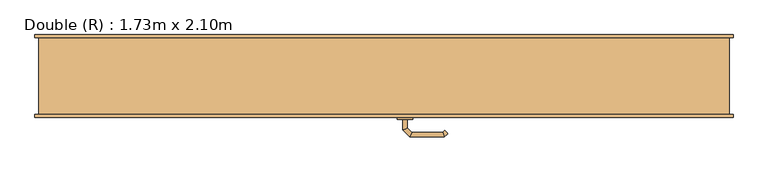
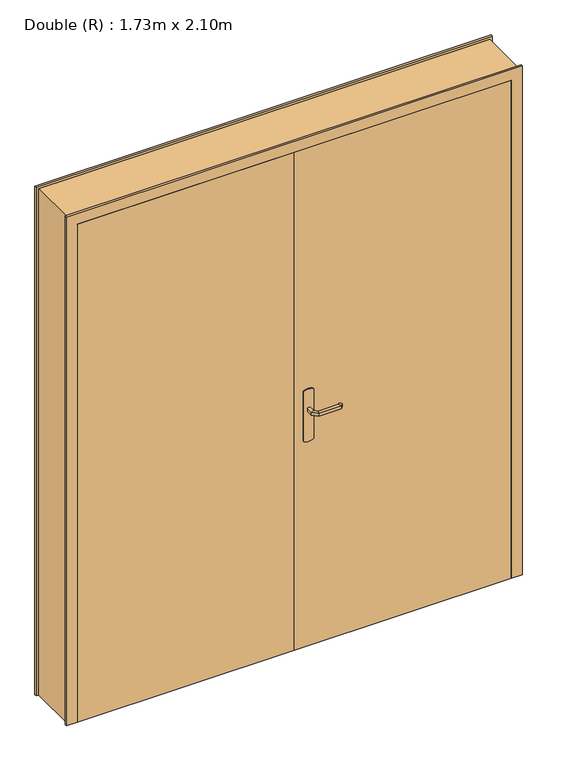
"""IFC4 building model written with IfcOpenShell, lengths in millimetres: door geometry, Double (R) : 1.73m x 2.10m."""

from ifc_helpers import new_model, si_unit, point, frame, frame_2d, origin, origin_with_axes, place, context, project, spatial, polyline, circle_curve, ellipse_curve, trimmed, segment, composite_curve, outline, extrude, faceted_brep, source, transform, mapped, element, save
from ifc_brep_helpers import plane_surface, cylinder_surface, advanced_brep


def double_r_1_73m_x_2_10m_c7e8f5c4(model_context):
    return source(origin(), model_context, "Body", "SolidModel", [
        advanced_brep(
        [(61.0, -63.0, 993.0), (61.0, -63.0, 1007.0), (49.0, -63.0, 1007.0), (49.0, -63.0, 993.0), (61.0, -40.5147955, 993.0), (61.0, -40.5147955, 1007.0), (49.0, -35.5442327, 1007.0), (49.0, -35.5442327, 993.0), (72.4852814, -29.0295141, 993.0), (72.4852814, -29.0295141, 1007.0), (67.5147186, -17.0295141, 1007.0), (67.5147186, -17.0295141, 993.0), (152.5605023, -29.0295141, 993.0), (152.5605023, -29.0295141, 1007.0), (157.531065, -17.0295141, 1007.0), (157.531065, -17.0295141, 993.0), (157.8742108, -34.3432226, 993.0), (166.3594922, -25.8579412, 993.0), (166.3594922, -25.8579412, 1007.0), (157.8742108, -34.3432226, 1007.0)],
        [
            (0, 1),
            (1, 2, circle_curve(frame((55.0, -63.0, 986.9542278), z_axis=(0.0, -1.0, 0.0), x_axis=(-1.0, 0.0, 0.0)), 20.9244589)),
            (2, 3),
            (3, 0, circle_curve(frame((55.0, -63.0, 1013.0457722), z_axis=(0.0, -1.0, 0.0), x_axis=(-1.0, 0.0, 0.0)), 20.9244589)),
            (0, 4),
            (4, 5),
            (5, 1),
            (5, 6, ellipse_curve(frame((55.0, -38.0295141, 986.9542278), z_axis=(-0.38268343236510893, -0.9238795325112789, 0.0), x_axis=(0.9238795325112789, -0.3826834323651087, 0.0)), 22.6484711, 20.9244589)),
            (6, 2),
            (6, 7),
            (7, 3),
            (7, 4, ellipse_curve(frame((55.0, -38.0295141, 1013.0457722), z_axis=(-0.38268343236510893, -0.9238795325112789, 0.0), x_axis=(0.9238795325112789, -0.3826834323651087, 0.0)), 22.6484711, 20.9244589)),
            (4, 8),
            (8, 9),
            (9, 5),
            (9, 10, ellipse_curve(frame((70.0, -23.0295141, 986.9542278), z_axis=(-0.9238795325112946, -0.38268343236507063, 0.0), x_axis=(0.3826834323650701, -0.9238795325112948, 0.0)), 22.6484711, 20.9244589)),
            (10, 6),
            (10, 11),
            (11, 7),
            (11, 8, ellipse_curve(frame((70.0, -23.0295141, 1013.0457722), z_axis=(-0.9238795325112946, -0.38268343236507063, 0.0), x_axis=(0.3826834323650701, -0.9238795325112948, 0.0)), 22.6484711, 20.9244589)),
            (8, 12),
            (12, 13),
            (13, 9),
            (13, 14, ellipse_curve(frame((155.0457837, -23.0295141, 986.9542278), z_axis=(-0.9238795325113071, 0.38268343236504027, 0.0), x_axis=(-0.38268343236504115, -0.9238795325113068, 0.0)), 22.6484711, 20.9244589)),
            (14, 10),
            (14, 15),
            (15, 11),
            (15, 12, ellipse_curve(frame((155.0457837, -23.0295141, 1013.0457722), z_axis=(-0.9238795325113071, 0.38268343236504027, 0.0), x_axis=(-0.38268343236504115, -0.9238795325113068, 0.0)), 22.6484711, 20.9244589)),
            (16, 17, circle_curve(frame((162.1168515, -30.1005819, 1013.0457722), z_axis=(0.7071067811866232, -0.7071067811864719, 0.0), x_axis=(0.7071067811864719, 0.7071067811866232, 0.0)), 20.9244589)),
            (17, 18),
            (18, 19, circle_curve(frame((162.1168515, -30.1005819, 986.9542278), z_axis=(0.7071067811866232, -0.7071067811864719, 0.0), x_axis=(0.7071067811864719, 0.7071067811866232, 0.0)), 20.9244589)),
            (19, 16),
            (12, 16),
            (19, 13),
            (18, 14),
            (17, 15),
        ],
        [
            plane_surface(frame((45.7804555, -63.0, 1000.0), z_axis=(0.0, -1.0, 0.0), x_axis=(0.0, 0.0, 1.0))),
            plane_surface(frame((61.0, -63.0, 993.0), z_axis=(1.0, 0.0, 0.0), x_axis=(0.0, 1.0, 0.0))),
            cylinder_surface(frame((55.0, -63.0, 986.9542278), z_axis=(0.0, -1.0, 0.0), x_axis=(-1.0, 0.0, 0.0)), 20.9244589),
            plane_surface(frame((49.0, -63.0, 1007.0), z_axis=(-1.0, 0.0, 0.0), x_axis=(0.0, 1.0, 0.0))),
            cylinder_surface(frame((55.0, -63.0, 1013.0457722), z_axis=(0.0, -1.0, 0.0), x_axis=(-1.0, 0.0, 0.0)), 20.9244589),
            plane_surface(frame((61.0, -40.5147955, 993.0), z_axis=(0.707106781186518, -0.707106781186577, 0.0), x_axis=(0.707106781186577, 0.707106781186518, 0.0))),
            cylinder_surface(frame((55.0, -38.0295141, 986.9542278), z_axis=(-0.7071067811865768, -0.7071067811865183, 0.0), x_axis=(-0.7071067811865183, 0.7071067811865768, 0.0)), 20.9244589),
            plane_surface(frame((49.0, -35.5442327, 1007.0), z_axis=(-0.7071067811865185, 0.7071067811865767, 0.0), x_axis=(0.7071067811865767, 0.7071067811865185, 0.0))),
            cylinder_surface(frame((55.0, -38.0295141, 1013.0457722), z_axis=(-0.7071067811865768, -0.7071067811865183, 0.0), x_axis=(-0.7071067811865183, 0.7071067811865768, 0.0)), 20.9244589),
            plane_surface(frame((72.4852814, -29.0295141, 993.0), z_axis=(0.0, -1.0, 0.0), x_axis=(1.0, 0.0, 0.0))),
            cylinder_surface(frame((70.0, -23.0295141, 986.9542278), z_axis=(-1.0, 0.0, 0.0), x_axis=(0.0, 1.0, 0.0)), 20.9244589),
            plane_surface(frame((67.5147186, -17.0295141, 1007.0), z_axis=(0.0, 1.0, 0.0), x_axis=(1.0, 0.0, 0.0))),
            cylinder_surface(frame((70.0, -23.0295141, 1013.0457722), z_axis=(-1.0, 0.0, 0.0), x_axis=(0.0, 1.0, 0.0)), 20.9244589),
            plane_surface(frame((162.1168515, -30.1005819, 990.7804555), z_axis=(0.7071067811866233, -0.7071067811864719, 0.0), x_axis=(0.7071067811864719, 0.7071067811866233, 0.0))),
            plane_surface(frame((152.5605023, -29.0295141, 993.0), z_axis=(-0.707106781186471, -0.7071067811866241, 0.0), x_axis=(0.7071067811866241, -0.707106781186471, 0.0))),
            cylinder_surface(frame((155.0457837, -23.0295141, 986.9542278), z_axis=(-0.7071067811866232, 0.7071067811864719, 0.0), x_axis=(0.7071067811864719, 0.7071067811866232, 0.0)), 20.9244589),
            plane_surface(frame((157.531065, -17.0295141, 1007.0), z_axis=(0.7071067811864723, 0.7071067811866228, 0.0), x_axis=(0.7071067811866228, -0.7071067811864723, 0.0))),
            cylinder_surface(frame((155.0457837, -23.0295141, 1013.0457722), z_axis=(-0.7071067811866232, 0.7071067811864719, 0.0), x_axis=(0.7071067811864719, 0.7071067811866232, 0.0)), 20.9244589),
        ],
        [
            (0, [[1, 2, 3, 4]]),
            (1, [[-1, 5, 6, 7]]),
            (2, [[-2, -7, 8, 9]]),
            (3, [[-3, -9, 10, 11]]),
            (4, [[-4, -11, 12, -5]]),
            (5, [[-6, 13, 14, 15]]),
            (6, [[-8, -15, 16, 17]]),
            (7, [[-10, -17, 18, 19]]),
            (8, [[-12, -19, 20, -13]]),
            (9, [[-14, 21, 22, 23]]),
            (10, [[-16, -23, 24, 25]]),
            (11, [[-18, -25, 26, 27]]),
            (12, [[-20, -27, 28, -21]]),
            (13, [[29, 30, 31, 32]]),
            (14, [[-22, 33, -32, 34]]),
            (15, [[-24, -34, -31, 35]]),
            (16, [[-26, -35, -30, 36]]),
            (17, [[-28, -36, -29, -33]]),
        ],
    ),
        advanced_brep(
        [(49.0, -113.0, 1007.0), (61.0, -113.0, 1007.0), (61.0, -113.0, 993.0), (49.0, -113.0, 993.0), (49.0, -140.6509507, 1007.0), (61.0, -135.680388, 1007.0), (61.0, -135.680388, 993.0), (49.0, -140.6509507, 993.0), (67.37721, -159.0281607, 1007.0), (72.3477727, -147.0281607, 1007.0), (72.3477727, -147.0281607, 993.0), (67.37721, -159.0281607, 993.0), (157.503922, -159.0281607, 1007.0), (152.5333592, -147.0281607, 1007.0), (152.5333592, -147.0281607, 993.0), (157.503922, -159.0281607, 993.0), (166.3323491, -150.1997336, 1007.0), (166.3323491, -150.1997336, 993.0), (157.8470677, -141.7144522, 993.0), (157.8470677, -141.7144522, 1007.0)],
        [
            (0, 1, circle_curve(frame((55.0, -113.0, 986.9542278), z_axis=(0.0, 1.0, 0.0), x_axis=(1.0, 0.0, 0.0)), 20.9244589)),
            (1, 2),
            (2, 3, circle_curve(frame((55.0, -113.0, 1013.0457722), z_axis=(0.0, 1.0, 0.0), x_axis=(1.0, 0.0, 0.0)), 20.9244589)),
            (3, 0),
            (0, 4),
            (4, 5, ellipse_curve(frame((55.0, -138.1656693, 986.9542278), z_axis=(-0.3826834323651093, 0.9238795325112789, 0.0), x_axis=(0.9238795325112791, 0.38268343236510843, 0.0)), 22.6484711, 20.9244589)),
            (5, 1),
            (5, 6),
            (6, 2),
            (6, 7, ellipse_curve(frame((55.0, -138.1656693, 1013.0457722), z_axis=(-0.3826834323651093, 0.9238795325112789, 0.0), x_axis=(0.9238795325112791, 0.38268343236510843, 0.0)), 22.6484711, 20.9244589)),
            (7, 3),
            (7, 4),
            (4, 8),
            (8, 9, ellipse_curve(frame((69.8624914, -153.0281607, 986.9542278), z_axis=(-0.9238795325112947, 0.38268343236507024, 0.0), x_axis=(0.3826834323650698, 0.9238795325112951, 0.0)), 22.6484711, 20.9244589)),
            (9, 5),
            (9, 10),
            (10, 6),
            (10, 11, ellipse_curve(frame((69.8624914, -153.0281607, 1013.0457722), z_axis=(-0.9238795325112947, 0.38268343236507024, 0.0), x_axis=(0.3826834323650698, 0.9238795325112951, 0.0)), 22.6484711, 20.9244589)),
            (11, 7),
            (11, 8),
            (8, 12),
            (12, 13, ellipse_curve(frame((155.0186406, -153.0281607, 986.9542278), z_axis=(-0.9238795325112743, -0.3826834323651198, 0.0), x_axis=(-0.38268343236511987, 0.9238795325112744, 0.0)), 22.6484711, 20.9244589)),
            (13, 9),
            (13, 14),
            (14, 10),
            (14, 15, ellipse_curve(frame((155.0186406, -153.0281607, 1013.0457722), z_axis=(-0.9238795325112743, -0.3826834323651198, 0.0), x_axis=(-0.38268343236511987, 0.9238795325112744, 0.0)), 22.6484711, 20.9244589)),
            (15, 11),
            (15, 12),
            (16, 17),
            (17, 18, circle_curve(frame((162.0897084, -145.9570929, 1013.0457722), z_axis=(0.7071067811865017, 0.7071067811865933, 0.0), x_axis=(-0.7071067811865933, 0.7071067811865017, 0.0)), 20.9244589)),
            (18, 19),
            (19, 16, circle_curve(frame((162.0897084, -145.9570929, 986.9542278), z_axis=(0.7071067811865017, 0.7071067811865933, 0.0), x_axis=(-0.7071067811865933, 0.7071067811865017, 0.0)), 20.9244589)),
            (12, 16),
            (19, 13),
            (18, 14),
            (17, 15),
        ],
        [
            plane_surface(frame((45.7804555, -113.0, 1000.0), z_axis=(0.0, 1.0, 0.0), x_axis=(0.0, 0.0, -1.0))),
            cylinder_surface(frame((55.0, -113.0, 986.9542278), z_axis=(0.0, 1.0, 0.0), x_axis=(1.0, 0.0, 0.0)), 20.9244589),
            plane_surface(frame((61.0, -113.0, 1007.0), z_axis=(1.0, 0.0, 0.0), x_axis=(0.0, -1.0, 0.0))),
            cylinder_surface(frame((55.0, -113.0, 1013.0457722), z_axis=(0.0, 1.0, 0.0), x_axis=(1.0, 0.0, 0.0)), 20.9244589),
            plane_surface(frame((49.0, -113.0, 993.0), z_axis=(-1.0, 0.0, 0.0), x_axis=(0.0, -1.0, 0.0))),
            cylinder_surface(frame((55.0, -138.1656693, 986.9542278), z_axis=(-0.7071067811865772, 0.7071067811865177, 0.0), x_axis=(0.7071067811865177, 0.7071067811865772, 0.0)), 20.9244589),
            plane_surface(frame((61.0, -135.680388, 1007.0), z_axis=(0.7071067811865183, 0.7071067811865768, 0.0), x_axis=(0.7071067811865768, -0.7071067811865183, 0.0))),
            cylinder_surface(frame((55.0, -138.1656693, 1013.0457722), z_axis=(-0.7071067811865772, 0.7071067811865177, 0.0), x_axis=(0.7071067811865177, 0.7071067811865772, 0.0)), 20.9244589),
            plane_surface(frame((49.0, -140.6509507, 993.0), z_axis=(-0.707106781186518, -0.707106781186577, 0.0), x_axis=(0.707106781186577, -0.707106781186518, 0.0))),
            cylinder_surface(frame((69.8624914, -153.0281607, 986.9542278), z_axis=(-1.0, 0.0, 0.0), x_axis=(0.0, 1.0, 0.0)), 20.9244589),
            plane_surface(frame((72.3477727, -147.0281607, 1007.0), z_axis=(0.0, 1.0, 0.0), x_axis=(1.0, 0.0, 0.0))),
            cylinder_surface(frame((69.8624914, -153.0281607, 1013.0457722), z_axis=(-1.0, 0.0, 0.0), x_axis=(0.0, 1.0, 0.0)), 20.9244589),
            plane_surface(frame((67.37721, -159.0281607, 993.0), z_axis=(0.0, -1.0, 0.0), x_axis=(1.0, 0.0, 0.0))),
            plane_surface(frame((162.0897084, -145.9570929, 1009.2195445), z_axis=(0.7071067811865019, 0.7071067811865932, 0.0), x_axis=(0.7071067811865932, -0.7071067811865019, 0.0))),
            cylinder_surface(frame((155.0186406, -153.0281607, 986.9542278), z_axis=(-0.7071067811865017, -0.7071067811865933, 0.0), x_axis=(-0.7071067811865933, 0.7071067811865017, 0.0)), 20.9244589),
            plane_surface(frame((152.5333592, -147.0281607, 1007.0), z_axis=(-0.7071067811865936, 0.7071067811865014, 0.0), x_axis=(0.7071067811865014, 0.7071067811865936, 0.0))),
            cylinder_surface(frame((155.0186406, -153.0281607, 1013.0457722), z_axis=(-0.7071067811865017, -0.7071067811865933, 0.0), x_axis=(-0.7071067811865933, 0.7071067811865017, 0.0)), 20.9244589),
            plane_surface(frame((157.503922, -159.0281607, 993.0), z_axis=(0.707106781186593, -0.7071067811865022, 0.0), x_axis=(0.7071067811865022, 0.707106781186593, 0.0))),
        ],
        [
            (0, [[1, 2, 3, 4]]),
            (1, [[-1, 5, 6, 7]]),
            (2, [[-2, -7, 8, 9]]),
            (3, [[-3, -9, 10, 11]]),
            (4, [[-4, -11, 12, -5]]),
            (5, [[-6, 13, 14, 15]]),
            (6, [[-8, -15, 16, 17]]),
            (7, [[-10, -17, 18, 19]]),
            (8, [[-12, -19, 20, -13]]),
            (9, [[-14, 21, 22, 23]]),
            (10, [[-16, -23, 24, 25]]),
            (11, [[-18, -25, 26, 27]]),
            (12, [[-20, -27, 28, -21]]),
            (13, [[29, 30, 31, 32]]),
            (14, [[-22, 33, -32, 34]]),
            (15, [[-24, -34, -31, 35]]),
            (16, [[-26, -35, -30, 36]]),
            (17, [[-28, -36, -29, -33]]),
        ],
    ),
        extrude(outline(composite_curve([segment(trimmed(circle_curve(frame_2d((1045.3589838, 55.0)), 40.0), [point((1080.0, 75.0))], [point((1080.0, 35.0))], False, "CARTESIAN"), True, "CONTINUOUS"), segment(polyline([(1080.0, 35.0), (870.0, 35.0)]), True, "CONTINUOUS"), segment(trimmed(circle_curve(frame_2d((904.6410162, 55.0)), 40.0), [point((870.0, 35.0))], [point((870.0, 75.0))], False, "CARTESIAN"), True, "CONTINUOUS"), segment(polyline([(870.0, 75.0), (1080.0, 75.0)]), True, "CONTINUOUS")], self_intersect=False)), frame((0.0, -68.0, 0.0), z_axis=(0.0, 1.0, 0.0), x_axis=(0.0, 0.0, 1.0)), (0.0, 0.0, 1.0), 5.0),
        extrude(outline(composite_curve([segment(trimmed(circle_curve(frame_2d((904.6410162, 55.0)), 40.0), [point((870.0, 35.0))], [point((870.0, 75.0))], False, "CARTESIAN"), True, "CONTINUOUS"), segment(polyline([(870.0, 75.0), (1080.0, 75.0)]), True, "CONTINUOUS"), segment(trimmed(circle_curve(frame_2d((1045.3589838, 55.0)), 40.0), [point((1080.0, 75.0))], [point((1080.0, 35.0))], False, "CARTESIAN"), True, "CONTINUOUS"), segment(polyline([(1080.0, 35.0), (870.0, 35.0)]), True, "CONTINUOUS")], self_intersect=False)), frame((0.0, -113.0, 0.0), z_axis=(0.0, 1.0, 0.0), x_axis=(0.0, 0.0, 1.0)), (0.0, 0.0, 1.0), 5.0),
        faceted_brep([(-900.0, -100.0, 0.0), (-900.0, 100.0, 0.0), (-910.0, 100.0, 0.0), (-910.0, 108.0, 0.0), (-850.0, 108.0, 0.0), (-850.0, -68.0, 0.0), (-865.0, -68.0, 0.0), (-865.0, -108.0, 0.0), (-910.0, -108.0, 0.0), (-910.0, -100.0, 0.0), (-900.0, -100.0, 2135.0), (-900.0, 100.0, 2135.0), (900.0, 100.0, 2135.0), (900.0, 100.0, 0.0), (910.0, 100.0, 0.0), (910.0, 100.0, 2145.0), (-910.0, 100.0, 2145.0), (-910.0, 108.0, 2145.0), (910.0, 108.0, 2145.0), (910.0, 108.0, 0.0), (850.0, 108.0, 0.0), (850.0, 108.0, 2085.0), (-850.0, 108.0, 2085.0), (-850.0, -68.0, 2085.0), (850.0, -68.0, 2085.0), (850.0, -68.0, 0.0), (865.0, -68.0, 0.0), (865.0, -68.0, 2100.0), (-865.0, -68.0, 2100.0), (-865.0, -108.0, 2100.0), (865.0, -108.0, 2100.0), (865.0, -108.0, 0.0), (910.0, -108.0, 0.0), (910.0, -108.0, 2145.0), (-910.0, -108.0, 2145.0), (-910.0, -100.0, 2145.0), (910.0, -100.0, 2145.0), (910.0, -100.0, 0.0), (900.0, -100.0, 0.0), (900.0, -100.0, 2135.0)], [[[0, 1, 2, 3, 4, 5, 6, 7, 8, 9]], [[1, 0, 10, 11]], [[2, 1, 11, 12, 13, 14, 15, 16]], [[3, 2, 16, 17]], [[4, 3, 17, 18, 19, 20, 21, 22]], [[5, 4, 22, 23]], [[6, 5, 23, 24, 25, 26, 27, 28]], [[7, 6, 28, 29]], [[8, 7, 29, 30, 31, 32, 33, 34]], [[9, 8, 34, 35]], [[0, 9, 35, 36, 37, 38, 39, 10]], [[12, 39, 38, 13]], [[38, 37, 32, 31, 26, 25, 20, 19, 14, 13]], [[18, 15, 14, 19]], [[24, 21, 20, 25]], [[30, 27, 26, 31]], [[36, 33, 32, 37]], [[11, 10, 39, 12]], [[17, 16, 15, 18]], [[23, 22, 21, 24]], [[29, 28, 27, 30]], [[35, 34, 33, 36]]]),
        extrude(outline(polyline([(865.0, -108.0), (0.0, -108.0), (0.0, -68.0), (865.0, -68.0), (865.0, -108.0)])), origin_with_axes(), (0.0, 0.0, 1.0), 2100.0),
        extrude(outline(polyline([(0.0, -108.0), (-865.0, -108.0), (-865.0, -68.0), (0.0, -68.0), (0.0, -108.0)])), origin_with_axes(), (0.0, 0.0, 1.0), 2100.0),
    ])


if __name__ == "__main__":
    model = new_model("IFC4")
    model_context = context("Model", 3, world=origin())
    ifc_project = project(units=[si_unit("LENGTHUNIT", "METRE", prefix="MILLI")], contexts=[model_context])
    site = spatial("IfcSite", under=ifc_project)
    building = spatial("IfcBuilding", under=site)
    placement = place(None, origin())
    double_r_1_73m_x_2_10m_shape = double_r_1_73m_x_2_10m_c7e8f5c4(model_context)
    element("IfcDoor", 1, ObjectType="Double (R) : 1.73m x 2.10m", at=placement, inside=building, context=model_context, shape_type="MappedRepresentation", body=[
        mapped(double_r_1_73m_x_2_10m_shape, transform((0.0, 0.0, 0.0), x_axis=(1.0, 0.0, 0.0), y_axis=(0.0, 1.0, 0.0), z_axis=(0.0, 0.0, 1.0))),
    ])
    save(model, "model.ifc")
